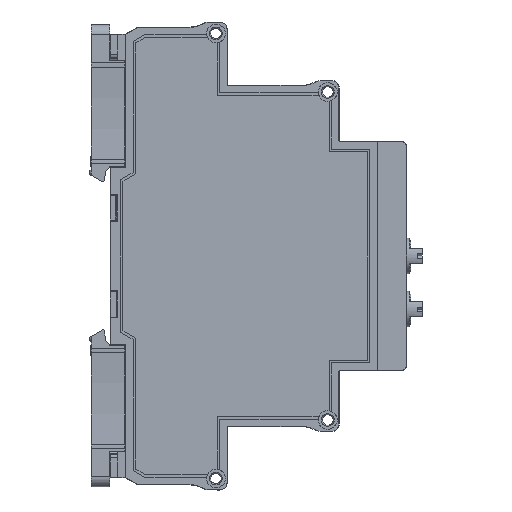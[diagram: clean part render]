
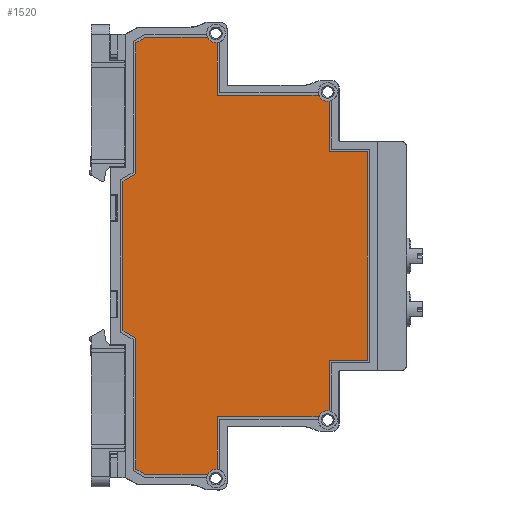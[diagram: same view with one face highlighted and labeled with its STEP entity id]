
A CAD part, front view. The second image highlights one B-rep face of the part: STEP entity #1520.
In plain terms, the highlighted planar face has unit normal (0, -1, 0) as drawn and (1, 0, 0) by its records, which use the part's own axes.
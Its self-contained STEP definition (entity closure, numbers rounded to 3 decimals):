
#1520=ADVANCED_FACE('',(#37135),#37137,.T.);
#37135=FACE_BOUND('',#37136,.T.);
#37136=EDGE_LOOP('',(#65657,#65658,#65659,#65660,#65661,#65662,#65663,#65664,#65665,
#65666,#65667,#65668,#65669,#65670,#65671,#65672,#65673,#65674,#65675,#65676,#65677,
#65678));
#37137=PLANE('',#37138);
#37138=AXIS2_PLACEMENT_3D('',#37139,#37140,#37141);
#37139=CARTESIAN_POINT('',(6.5,0.,0.));
#37140=DIRECTION('',(1.,0.,0.));
#37141=DIRECTION('',(0.,0.,-1.));
#65657=ORIENTED_EDGE('',*,*,#89149,.F.);
#65658=ORIENTED_EDGE('',*,*,#89150,.T.);
#65659=ORIENTED_EDGE('',*,*,#89067,.F.);
#65660=ORIENTED_EDGE('',*,*,#89151,.T.);
#65661=ORIENTED_EDGE('',*,*,#89152,.T.);
#65662=ORIENTED_EDGE('',*,*,#89153,.T.);
#65663=ORIENTED_EDGE('',*,*,#89154,.T.);
#65664=ORIENTED_EDGE('',*,*,#89155,.T.);
#65665=ORIENTED_EDGE('',*,*,#89051,.F.);
#65666=ORIENTED_EDGE('',*,*,#89156,.F.);
#65667=ORIENTED_EDGE('',*,*,#89157,.T.);
#65668=ORIENTED_EDGE('',*,*,#89061,.F.);
#65669=ORIENTED_EDGE('',*,*,#89158,.T.);
#65670=ORIENTED_EDGE('',*,*,#89159,.F.);
#65671=ORIENTED_EDGE('',*,*,#89160,.T.);
#65672=ORIENTED_EDGE('',*,*,#89161,.T.);
#65673=ORIENTED_EDGE('',*,*,#89162,.T.);
#65674=ORIENTED_EDGE('',*,*,#89163,.T.);
#65675=ORIENTED_EDGE('',*,*,#89164,.T.);
#65676=ORIENTED_EDGE('',*,*,#89165,.F.);
#65677=ORIENTED_EDGE('',*,*,#89166,.T.);
#65678=ORIENTED_EDGE('',*,*,#89077,.F.);
#89051=EDGE_CURVE('',#100213,#100198,#100215,.T.);
#89061=EDGE_CURVE('',#100233,#100218,#100235,.T.);
#89067=EDGE_CURVE('',#100245,#100247,#100248,.T.);
#89077=EDGE_CURVE('',#100265,#100267,#100268,.T.);
#89149=EDGE_CURVE('',#100406,#100265,#100407,.T.);
#89150=EDGE_CURVE('',#100406,#100247,#100408,.T.);
#89151=EDGE_CURVE('',#100245,#100409,#100410,.T.);
#89152=EDGE_CURVE('',#100409,#100411,#100412,.T.);
#89153=EDGE_CURVE('',#100411,#100413,#100414,.T.);
#89154=EDGE_CURVE('',#100413,#100415,#100416,.T.);
#89155=EDGE_CURVE('',#100415,#100198,#100417,.T.);
#89156=EDGE_CURVE('',#100418,#100213,#100419,.T.);
#89157=EDGE_CURVE('',#100418,#100218,#100420,.T.);
#89158=EDGE_CURVE('',#100233,#100421,#100422,.T.);
#89159=EDGE_CURVE('',#100423,#100421,#100424,.T.);
#89160=EDGE_CURVE('',#100423,#100425,#100426,.T.);
#89161=EDGE_CURVE('',#100425,#100427,#100428,.T.);
#89162=EDGE_CURVE('',#100427,#100429,#100430,.T.);
#89163=EDGE_CURVE('',#100429,#100431,#100432,.T.);
#89164=EDGE_CURVE('',#100431,#100433,#100434,.T.);
#89165=EDGE_CURVE('',#100435,#100433,#100436,.T.);
#89166=EDGE_CURVE('',#100435,#100267,#100437,.T.);
#100198=VERTEX_POINT('',#119294);
#100213=VERTEX_POINT('',#119327);
#100215=CIRCLE('',#119331,1.85);
#100218=VERTEX_POINT('',#119340);
#100233=VERTEX_POINT('',#119373);
#100235=CIRCLE('',#119377,1.85);
#100245=VERTEX_POINT('',#119401);
#100247=VERTEX_POINT('',#119405);
#100248=CIRCLE('',#119406,1.85);
#100265=VERTEX_POINT('',#119447);
#100267=VERTEX_POINT('',#119451);
#100268=CIRCLE('',#119452,1.85);
#100406=VERTEX_POINT('',#119756);
#100407=LINE('',#119757,#119758);
#100408=LINE('',#119760,#119761);
#100409=VERTEX_POINT('',#119763);
#100410=LINE('',#119764,#119765);
#100411=VERTEX_POINT('',#119767);
#100412=LINE('',#119768,#119769);
#100413=VERTEX_POINT('',#119771);
#100414=LINE('',#119772,#119773);
#100415=VERTEX_POINT('',#119775);
#100416=LINE('',#119776,#119777);
#100417=LINE('',#119779,#119780);
#100418=VERTEX_POINT('',#119782);
#100419=LINE('',#119783,#119784);
#100420=LINE('',#119786,#119787);
#100421=VERTEX_POINT('',#119789);
#100422=LINE('',#119790,#119791);
#100423=VERTEX_POINT('',#119793);
#100424=LINE('',#119794,#119795);
#100425=VERTEX_POINT('',#119797);
#100426=LINE('',#119798,#119799);
#100427=VERTEX_POINT('',#119801);
#100428=LINE('',#119802,#119803);
#100429=VERTEX_POINT('',#119805);
#100430=LINE('',#119806,#119807);
#100431=VERTEX_POINT('',#119809);
#100432=LINE('',#119810,#119811);
#100433=VERTEX_POINT('',#119813);
#100434=LINE('',#119814,#119815);
#100435=VERTEX_POINT('',#119817);
#100436=LINE('',#119818,#119819);
#100437=LINE('',#119821,#119822);
#119294=CARTESIAN_POINT('',(6.5,-30.541,38.985));
#119327=CARTESIAN_POINT('',(6.5,-31.7,37.015));
#119331=AXIS2_PLACEMENT_3D('',#119332,#119333,#119334);
#119332=CARTESIAN_POINT('',(6.5,-32.375,38.738));
#119333=DIRECTION('',(1.,0.,0.));
#119334=DIRECTION('',(0.,0.365,-0.931));
#119340=CARTESIAN_POINT('',(6.5,-42.103,16.897));
#119373=CARTESIAN_POINT('',(6.5,-43.2,14.953));
#119377=AXIS2_PLACEMENT_3D('',#119378,#119379,#119380);
#119378=CARTESIAN_POINT('',(6.5,-43.937,16.65));
#119379=DIRECTION('',(1.,0.,0.));
#119380=DIRECTION('',(0.,0.398,-0.917));
#119401=CARTESIAN_POINT('',(6.5,30.541,38.985));
#119405=CARTESIAN_POINT('',(6.5,31.7,37.015));
#119406=AXIS2_PLACEMENT_3D('',#119407,#119408,#119409);
#119407=CARTESIAN_POINT('',(6.5,32.375,38.738));
#119408=DIRECTION('',(1.,0.,0.));
#119409=DIRECTION('',(0.,-0.991,0.134));
#119447=CARTESIAN_POINT('',(6.5,42.103,16.897));
#119451=CARTESIAN_POINT('',(6.5,43.2,14.953));
#119452=AXIS2_PLACEMENT_3D('',#119453,#119454,#119455);
#119453=CARTESIAN_POINT('',(6.5,43.937,16.65));
#119454=DIRECTION('',(1.,0.,0.));
#119455=DIRECTION('',(0.,-0.991,0.134));
#119756=CARTESIAN_POINT('',(6.5,31.7,16.897));
#119757=CARTESIAN_POINT('',(6.5,31.7,16.897));
#119758=VECTOR('',#119759,1.);
#119759=DIRECTION('',(0.,1.,0.));
#119760=CARTESIAN_POINT('',(6.5,31.7,16.897));
#119761=VECTOR('',#119762,1.);
#119762=DIRECTION('',(0.,0.,1.));
#119763=CARTESIAN_POINT('',(6.5,20.6,38.985));
#119764=CARTESIAN_POINT('',(6.5,30.541,38.985));
#119765=VECTOR('',#119766,1.);
#119766=DIRECTION('',(0.,-1.,0.));
#119767=CARTESIAN_POINT('',(6.5,20.6,46.53));
#119768=CARTESIAN_POINT('',(6.5,20.6,38.985));
#119769=VECTOR('',#119770,1.);
#119770=DIRECTION('',(0.,0.,1.));
#119771=CARTESIAN_POINT('',(6.5,-20.6,46.53));
#119772=CARTESIAN_POINT('',(6.5,20.6,46.53));
#119773=VECTOR('',#119774,1.);
#119774=DIRECTION('',(0.,-1.,0.));
#119775=CARTESIAN_POINT('',(6.5,-20.6,38.985));
#119776=CARTESIAN_POINT('',(6.5,-20.6,46.53));
#119777=VECTOR('',#119778,1.);
#119778=DIRECTION('',(0.,0.,-1.));
#119779=CARTESIAN_POINT('',(6.5,-20.6,38.985));
#119780=VECTOR('',#119781,1.);
#119781=DIRECTION('',(0.,-1.,0.));
#119782=CARTESIAN_POINT('',(6.5,-31.7,16.897));
#119783=CARTESIAN_POINT('',(6.5,-31.7,16.897));
#119784=VECTOR('',#119785,1.);
#119785=DIRECTION('',(0.,0.,1.));
#119786=CARTESIAN_POINT('',(6.5,-31.7,16.897));
#119787=VECTOR('',#119788,1.);
#119788=DIRECTION('',(0.,-1.,0.));
#119789=CARTESIAN_POINT('',(6.5,-43.2,2.761));
#119790=CARTESIAN_POINT('',(6.5,-43.2,14.953));
#119791=VECTOR('',#119792,1.);
#119792=DIRECTION('',(0.,0.,-1.));
#119793=CARTESIAN_POINT('',(6.5,-42.068,0.8));
#119794=CARTESIAN_POINT('',(6.5,-42.068,0.8));
#119795=VECTOR('',#119796,1.);
#119796=DIRECTION('',(0.,-0.5,0.866));
#119797=CARTESIAN_POINT('',(6.5,-16.211,0.8));
#119798=CARTESIAN_POINT('',(6.5,-42.068,0.8));
#119799=VECTOR('',#119800,1.);
#119800=DIRECTION('',(0.,1.,0.));
#119801=CARTESIAN_POINT('',(6.5,-14.768,-1.7));
#119802=CARTESIAN_POINT('',(6.5,-16.211,0.8));
#119803=VECTOR('',#119804,1.);
#119804=DIRECTION('',(0.,0.5,-0.866));
#119805=CARTESIAN_POINT('',(6.5,14.768,-1.7));
#119806=CARTESIAN_POINT('',(6.5,-14.768,-1.7));
#119807=VECTOR('',#119808,1.);
#119808=DIRECTION('',(0.,1.,0.));
#119809=CARTESIAN_POINT('',(6.5,16.211,0.8));
#119810=CARTESIAN_POINT('',(6.5,14.768,-1.7));
#119811=VECTOR('',#119812,1.);
#119812=DIRECTION('',(0.,0.5,0.866));
#119813=CARTESIAN_POINT('',(6.5,42.068,0.8));
#119814=CARTESIAN_POINT('',(6.5,16.211,0.8));
#119815=VECTOR('',#119816,1.);
#119816=DIRECTION('',(0.,1.,0.));
#119817=CARTESIAN_POINT('',(6.5,43.2,2.761));
#119818=CARTESIAN_POINT('',(6.5,43.2,2.761));
#119819=VECTOR('',#119820,1.);
#119820=DIRECTION('',(0.,-0.5,-0.866));
#119821=CARTESIAN_POINT('',(6.5,43.2,2.761));
#119822=VECTOR('',#119823,1.);
#119823=DIRECTION('',(0.,0.,1.));
